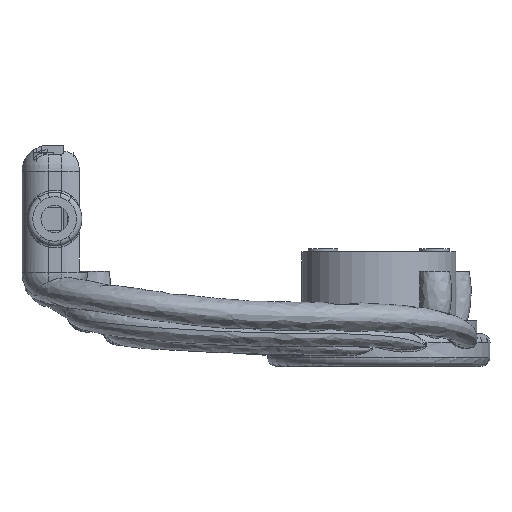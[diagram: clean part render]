
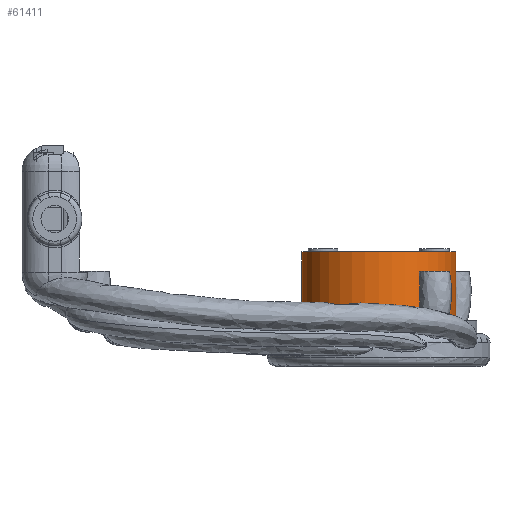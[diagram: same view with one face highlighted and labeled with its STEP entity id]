
A CAD part, top view. The second image highlights one B-rep face of the part: STEP entity #61411.
In plain terms, the highlighted cylindrical face has radius 23.5 mm (diameter 47 mm), a full revolution.
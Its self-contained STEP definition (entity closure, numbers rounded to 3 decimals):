
#51734 = PLANE('',#51735);
#51735 = AXIS2_PLACEMENT_3D('',#51736,#51737,#51738);
#51736 = CARTESIAN_POINT('',(31.,-31.,43.));
#51737 = DIRECTION('',(0.,1.,0.));
#51738 = DIRECTION('',(0.,-0.,1.));
#60993 = EDGE_CURVE('',#60994,#60994,#60996,.T.);
#60994 = VERTEX_POINT('',#60995);
#60995 = CARTESIAN_POINT('',(31.,-31.,66.5));
#60996 = SURFACE_CURVE('',#60997,(#61002,#61009),.PCURVE_S1.);
#60997 = CIRCLE('',#60998,23.5);
#60998 = AXIS2_PLACEMENT_3D('',#60999,#61000,#61001);
#60999 = CARTESIAN_POINT('',(31.,-31.,43.));
#61000 = DIRECTION('',(0.,1.,0.));
#61001 = DIRECTION('',(0.,-0.,1.));
#61002 = PCURVE('',#51734,#61003);
#61003 = DEFINITIONAL_REPRESENTATION('',(#61004),#61008);
#61004 = CIRCLE('',#61005,23.5);
#61005 = AXIS2_PLACEMENT_2D('',#61006,#61007);
#61006 = CARTESIAN_POINT('',(0.,0.));
#61007 = DIRECTION('',(1.,0.));
#61008 = ( GEOMETRIC_REPRESENTATION_CONTEXT(2) 
PARAMETRIC_REPRESENTATION_CONTEXT() REPRESENTATION_CONTEXT('2D SPACE',''
  ) );
#61009 = PCURVE('',#61010,#61015);
#61010 = CYLINDRICAL_SURFACE('',#61011,23.5);
#61011 = AXIS2_PLACEMENT_3D('',#61012,#61013,#61014);
#61012 = CARTESIAN_POINT('',(31.,-32.,43.));
#61013 = DIRECTION('',(0.,1.,0.));
#61014 = DIRECTION('',(0.,-0.,1.));
#61015 = DEFINITIONAL_REPRESENTATION('',(#61016),#61020);
#61016 = LINE('',#61017,#61018);
#61017 = CARTESIAN_POINT('',(0.,1.));
#61018 = VECTOR('',#61019,1.);
#61019 = DIRECTION('',(1.,0.));
#61020 = ( GEOMETRIC_REPRESENTATION_CONTEXT(2) 
PARAMETRIC_REPRESENTATION_CONTEXT() REPRESENTATION_CONTEXT('2D SPACE',''
  ) );
#61411 = ADVANCED_FACE('',(#61412),#61010,.T.);
#61412 = FACE_BOUND('',#61413,.T.);
#61413 = EDGE_LOOP('',(#61414,#61437,#61464,#61465));
#61414 = ORIENTED_EDGE('',*,*,#61415,.T.);
#61415 = EDGE_CURVE('',#60994,#61416,#61418,.T.);
#61416 = VERTEX_POINT('',#61417);
#61417 = CARTESIAN_POINT('',(31.,-10.,66.5));
#61418 = SEAM_CURVE('',#61419,(#61423,#61430),.PCURVE_S1.);
#61419 = LINE('',#61420,#61421);
#61420 = CARTESIAN_POINT('',(31.,-32.,66.5));
#61421 = VECTOR('',#61422,1.);
#61422 = DIRECTION('',(0.,1.,0.));
#61423 = PCURVE('',#61010,#61424);
#61424 = DEFINITIONAL_REPRESENTATION('',(#61425),#61429);
#61425 = LINE('',#61426,#61427);
#61426 = CARTESIAN_POINT('',(6.283,0.));
#61427 = VECTOR('',#61428,1.);
#61428 = DIRECTION('',(0.,1.));
#61429 = ( GEOMETRIC_REPRESENTATION_CONTEXT(2) 
PARAMETRIC_REPRESENTATION_CONTEXT() REPRESENTATION_CONTEXT('2D SPACE',''
  ) );
#61430 = PCURVE('',#61010,#61431);
#61431 = DEFINITIONAL_REPRESENTATION('',(#61432),#61436);
#61432 = LINE('',#61433,#61434);
#61433 = CARTESIAN_POINT('',(0.,0.));
#61434 = VECTOR('',#61435,1.);
#61435 = DIRECTION('',(0.,1.));
#61436 = ( GEOMETRIC_REPRESENTATION_CONTEXT(2) 
PARAMETRIC_REPRESENTATION_CONTEXT() REPRESENTATION_CONTEXT('2D SPACE',''
  ) );
#61437 = ORIENTED_EDGE('',*,*,#61438,.F.);
#61438 = EDGE_CURVE('',#61416,#61416,#61439,.T.);
#61439 = SURFACE_CURVE('',#61440,(#61445,#61452),.PCURVE_S1.);
#61440 = CIRCLE('',#61441,23.5);
#61441 = AXIS2_PLACEMENT_3D('',#61442,#61443,#61444);
#61442 = CARTESIAN_POINT('',(31.,-10.,43.));
#61443 = DIRECTION('',(0.,1.,0.));
#61444 = DIRECTION('',(0.,-0.,1.));
#61445 = PCURVE('',#61010,#61446);
#61446 = DEFINITIONAL_REPRESENTATION('',(#61447),#61451);
#61447 = LINE('',#61448,#61449);
#61448 = CARTESIAN_POINT('',(0.,22.));
#61449 = VECTOR('',#61450,1.);
#61450 = DIRECTION('',(1.,0.));
#61451 = ( GEOMETRIC_REPRESENTATION_CONTEXT(2) 
PARAMETRIC_REPRESENTATION_CONTEXT() REPRESENTATION_CONTEXT('2D SPACE',''
  ) );
#61452 = PCURVE('',#61453,#61458);
#61453 = PLANE('',#61454);
#61454 = AXIS2_PLACEMENT_3D('',#61455,#61456,#61457);
#61455 = CARTESIAN_POINT('',(31.,-10.,43.));
#61456 = DIRECTION('',(0.,1.,0.));
#61457 = DIRECTION('',(0.,-0.,1.));
#61458 = DEFINITIONAL_REPRESENTATION('',(#61459),#61463);
#61459 = CIRCLE('',#61460,23.5);
#61460 = AXIS2_PLACEMENT_2D('',#61461,#61462);
#61461 = CARTESIAN_POINT('',(0.,0.));
#61462 = DIRECTION('',(1.,0.));
#61463 = ( GEOMETRIC_REPRESENTATION_CONTEXT(2) 
PARAMETRIC_REPRESENTATION_CONTEXT() REPRESENTATION_CONTEXT('2D SPACE',''
  ) );
#61464 = ORIENTED_EDGE('',*,*,#61415,.F.);
#61465 = ORIENTED_EDGE('',*,*,#60993,.T.);
